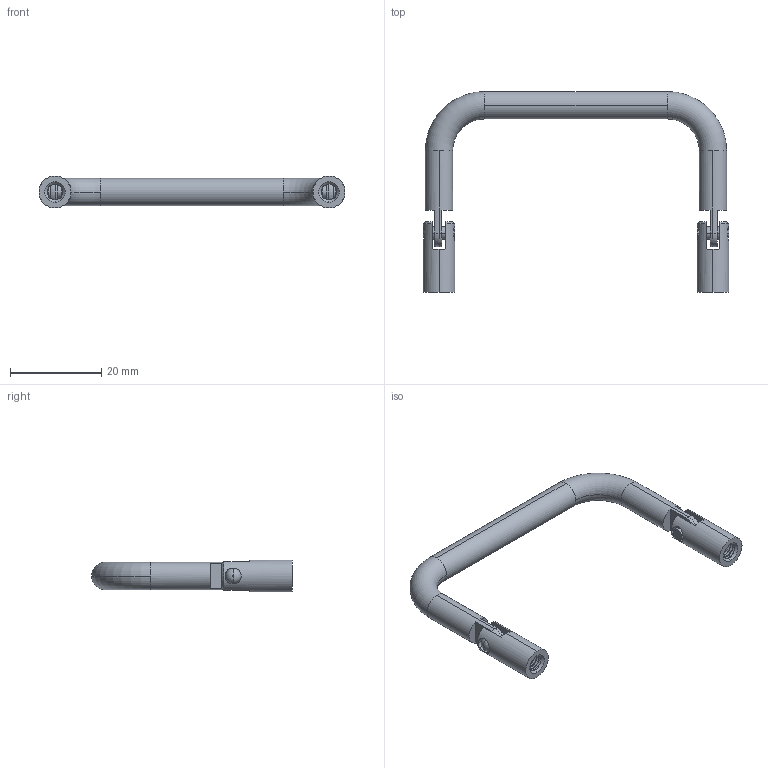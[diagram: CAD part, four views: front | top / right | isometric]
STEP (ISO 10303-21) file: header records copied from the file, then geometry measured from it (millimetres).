
FILE_DESCRIPTION (( 'STEP AP203' ), '1' );
FILE_NAME ('XG01-001-60.STEP', '2023-12-23T03:00:15', ( '' ), ( '' ), 'SwSTEP 2.0', 'SolidWorks 2020', '' );
FILE_SCHEMA (( 'CONFIG_CONTROL_DESIGN' ));
Length unit declared in the file: millimetre
Products named in the file (1): XG01-001-60
Bounding box: 67 x 44 x 7 mm (x, y, z)
Volume: 3618.7 mm3; surface area: 3476 mm2
Topology: 5 solids, 5 shells, 144 faces, 380 edges, 246 vertices
Faces by surface type: cylinder 82, plane 36, torus 8, cone 8, bspline 6, sphere 4
Entity records: 7497 total; most frequent: CARTESIAN_POINT 4119, ORIENTED_EDGE 760, DIRECTION 646, EDGE_CURVE 380, AXIS2_PLACEMENT_3D 261, VERTEX_POINT 246, EDGE_LOOP 160, FACE_OUTER_BOUND 144
